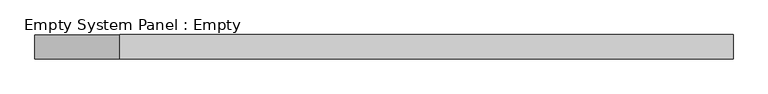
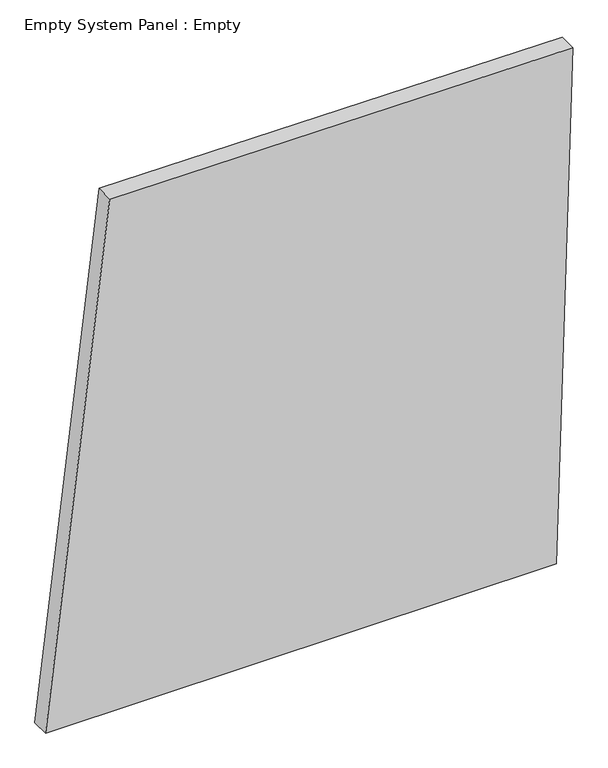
"""IFC4 building model written with IfcOpenShell, lengths in millimetres: plate geometry, Empty System Panel : Empty."""

from ifc_helpers import new_model, si_unit, frame, origin, place, context, project, spatial, polyline, outline, extrude, source, transform, mapped, element, save


def empty_system_panel_empty_acc5f44e(model_context):
    return source(origin(), model_context, "Body", "SweptSolid", [
        extrude(outline(polyline([(0.0, -1460.0057736), (0.0, 1368.0987331), (2986.067491, 1460.0057736), (2998.5772759, -1104.941265), (0.0, -1460.0057736)])), frame((0.0, -50.8, 0.0), z_axis=(0.0, 1.0, 0.0), x_axis=(0.0, 0.0, 1.0)), (0.0, 0.0, 1.0), 101.6),
    ])


if __name__ == "__main__":
    model = new_model("IFC4")
    model_context = context("Model", 3, world=origin())
    ifc_project = project(units=[si_unit("LENGTHUNIT", "METRE", prefix="MILLI")], contexts=[model_context])
    site = spatial("IfcSite", under=ifc_project)
    building = spatial("IfcBuilding", under=site)
    placement = place(None, origin())
    empty_system_panel_empty_shape = empty_system_panel_empty_acc5f44e(model_context)
    element("IfcPlate", 1, ObjectType="Empty System Panel : Empty", at=placement, inside=building, context=model_context, shape_type="MappedRepresentation", body=[
        mapped(empty_system_panel_empty_shape, transform((0.0, 0.0, 0.0), x_axis=(1.0, 0.0, 0.0), y_axis=(0.0, 1.0, 0.0), z_axis=(0.0, 0.0, 1.0))),
    ])
    save(model, "model.ifc")
